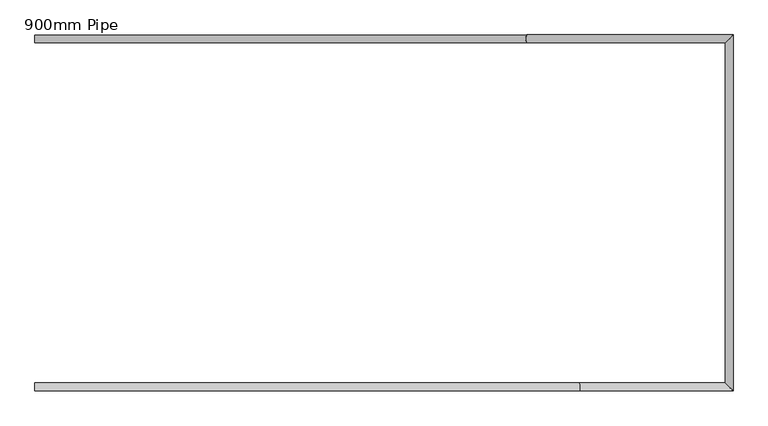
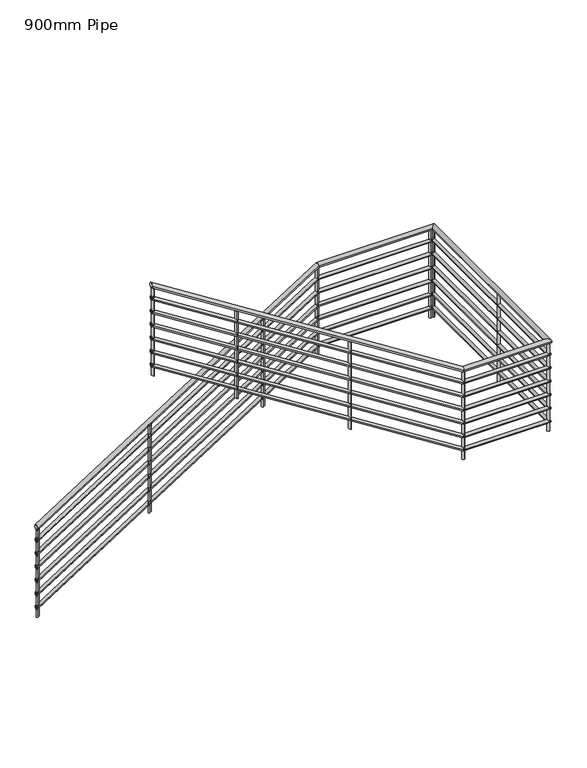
"""IFC4 building model written with IfcOpenShell, lengths in millimetres: railing geometry, 900mm Pipe."""

from ifc_helpers import new_model, si_unit, point, frame, frame_2d, origin, place, context, project, spatial, circle_curve, ellipse_curve, trimmed, segment, composite_curve, outline, extrude, source, transform, mapped, element, save
from ifc_brep_helpers import plane_surface, cylinder_surface, advanced_brep


def railing_900mm_pipe_3b92be15(model_context):
    return source(origin(), model_context, "Body", "SolidModel", [
        advanced_brep(
        [(9044.2181942, 164.5332903, 4551.2938094), (9044.2181942, 204.5332903, 4551.2938094), (11525.0422079, 204.5332903, 6130.0), (11525.0422079, 164.5332903, 6130.0), (12564.2181942, 204.5332903, 6130.0), (12524.2181942, 164.5332903, 6130.0), (12564.2181942, -1592.0090589, 6130.0), (12524.2181942, -1552.0090589, 6130.0), (11788.3941804, -1592.0090589, 6130.0), (11788.3941804, -1552.0090589, 6130.0), (9044.2181942, -1552.0090589, 7876.2938094), (9044.2181942, -1592.0090589, 7876.2938094)],
        [
            (0, 1, ellipse_curve(frame((9044.2181942, 184.5332903, 4551.2938094), z_axis=(-1.0, 0.0, 0.0), x_axis=(0.0, 0.0, -1.0)), 23.7061906, 20.0)),
            (1, 0, ellipse_curve(frame((9044.2181942, 184.5332903, 4551.2938094), z_axis=(-1.0, 0.0, 0.0), x_axis=(0.0, 0.0, -1.0)), 23.7061906, 20.0)),
            (1, 2),
            (2, 3, ellipse_curve(frame((11525.0422079, 184.5332903, 6130.0), z_axis=(-0.9601201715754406, 0.0, -0.2795876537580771), x_axis=(0.27958765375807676, 0.0, -0.9601201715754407)), 20.8307258, 20.0)),
            (3, 0),
            (3, 2, ellipse_curve(frame((11525.0422079, 184.5332903, 6130.0), z_axis=(-0.9601201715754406, 0.0, -0.2795876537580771), x_axis=(0.27958765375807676, 0.0, -0.9601201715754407)), 20.8307258, 20.0)),
            (2, 4),
            (4, 5, ellipse_curve(frame((12544.2181942, 184.5332903, 6130.0), z_axis=(-0.7071067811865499, 0.707106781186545, 0.0), x_axis=(-0.7071067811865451, -0.7071067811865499, 0.0)), 28.2842712, 20.0)),
            (5, 3),
            (5, 4, ellipse_curve(frame((12544.2181942, 184.5332903, 6130.0), z_axis=(-0.7071067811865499, 0.707106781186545, 0.0), x_axis=(-0.7071067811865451, -0.7071067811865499, 0.0)), 28.2842712, 20.0)),
            (4, 6),
            (6, 7, ellipse_curve(frame((12544.2181942, -1572.0090589, 6130.0), z_axis=(0.7071067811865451, 0.7071067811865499, 0.0), x_axis=(-0.70710678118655, 0.7071067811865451, 0.0)), 28.2842712, 20.0)),
            (7, 5),
            (7, 6, ellipse_curve(frame((12544.2181942, -1572.0090589, 6130.0), z_axis=(0.7071067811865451, 0.7071067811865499, 0.0), x_axis=(-0.70710678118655, 0.7071067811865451, 0.0)), 28.2842712, 20.0)),
            (6, 8),
            (8, 9, ellipse_curve(frame((11788.3941804, -1572.0090589, 6130.0), z_axis=(0.9601201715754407, 0.0, -0.279587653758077), x_axis=(0.2795876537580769, 0.0, 0.9601201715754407)), 20.8307258, 20.0)),
            (9, 7),
            (9, 8, ellipse_curve(frame((11788.3941804, -1572.0090589, 6130.0), z_axis=(0.9601201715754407, 0.0, -0.279587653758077), x_axis=(0.2795876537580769, 0.0, 0.9601201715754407)), 20.8307258, 20.0)),
            (10, 11, ellipse_curve(frame((9044.2181942, -1572.0090589, 7876.2938094), z_axis=(-1.0, 0.0, 0.0), x_axis=(0.0, 0.0, -1.0)), 23.7061906, 20.0)),
            (11, 10, ellipse_curve(frame((9044.2181942, -1572.0090589, 7876.2938094), z_axis=(-1.0, 0.0, 0.0), x_axis=(0.0, 0.0, -1.0)), 23.7061906, 20.0)),
            (8, 11),
            (10, 9),
        ],
        [
            plane_surface(frame((9044.2181942, 184.5332903, 4575.0), z_axis=(-1.0, 0.0, 0.0), x_axis=(0.0, 1.0, 0.0))),
            cylinder_surface(frame((9054.955704, 184.5332903, 4558.1267702), z_axis=(-0.8436614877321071, 0.0, -0.5368754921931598), x_axis=(0.0, 1.0, 0.0)), 20.0),
            cylinder_surface(frame((11519.2181942, 184.5332903, 6130.0), z_axis=(-1.0, 0.0, 0.0), x_axis=(0.0, 1.0, 0.0)), 20.0),
            cylinder_surface(frame((12544.2181942, 184.5332903, 6130.0), z_axis=(0.0, 1.0, 0.0), x_axis=(1.0, 0.0, 0.0)), 20.0),
            cylinder_surface(frame((12544.2181942, -1572.0090589, 6130.0), z_axis=(1.0, 0.0, 0.0), x_axis=(0.0, -1.0, 0.0)), 20.0),
            plane_surface(frame((9044.2181942, -1572.0090589, 7900.0), z_axis=(-1.0, 0.0, 0.0), x_axis=(0.0, -1.0, 0.0))),
            cylinder_surface(frame((11783.4806843, -1572.0090589, 6133.1267702), z_axis=(0.8436614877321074, 0.0, -0.5368754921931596), x_axis=(0.0, -1.0, 0.0)), 20.0),
        ],
        [
            (0, [[1, 2]]),
            (1, [[-2, 3, 4, 5]]),
            (1, [[-1, -5, 6, -3]]),
            (2, [[-4, 7, 8, 9]]),
            (2, [[-6, -9, 10, -7]]),
            (3, [[-8, 11, 12, 13]]),
            (3, [[-10, -13, 14, -11]]),
            (4, [[-12, 15, 16, 17]]),
            (4, [[-14, -17, 18, -15]]),
            (5, [[19, 20]]),
            (6, [[-16, 21, -19, 22]]),
            (6, [[-18, -22, -20, -21]]),
        ],
    ),
        advanced_brep(
        [(9044.2181942, 169.5332903, 4432.2203571), (9044.2181942, 199.5332903, 4432.2203571), (11523.5862045, 199.5332903, 6010.0), (11523.5862045, 169.5332903, 6010.0), (12559.2181942, 199.5332903, 6010.0), (12529.2181942, 169.5332903, 6010.0), (12559.2181942, -1587.0090589, 6010.0), (12529.2181942, -1557.0090589, 6010.0), (11789.8501838, -1587.0090589, 6010.0), (11789.8501838, -1557.0090589, 6010.0), (9044.2181942, -1557.0090589, 7757.2203571), (9044.2181942, -1587.0090589, 7757.2203571)],
        [
            (0, 1, ellipse_curve(frame((9044.2181942, 184.5332903, 4432.2203571), z_axis=(-1.0, 0.0, 0.0), x_axis=(0.0, 0.0, -1.0)), 17.7796429, 15.0)),
            (1, 0, ellipse_curve(frame((9044.2181942, 184.5332903, 4432.2203571), z_axis=(-1.0, 0.0, 0.0), x_axis=(0.0, 0.0, -1.0)), 17.7796429, 15.0)),
            (1, 2),
            (2, 3, ellipse_curve(frame((11523.5862045, 184.5332903, 6010.0), z_axis=(-0.9601201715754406, 0.0, -0.27958765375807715), x_axis=(0.2795876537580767, 0.0, -0.9601201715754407)), 15.6230443, 15.0)),
            (3, 0),
            (3, 2, ellipse_curve(frame((11523.5862045, 184.5332903, 6010.0), z_axis=(-0.9601201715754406, 0.0, -0.27958765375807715), x_axis=(0.2795876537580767, 0.0, -0.9601201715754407)), 15.6230443, 15.0)),
            (2, 4),
            (4, 5, ellipse_curve(frame((12544.2181942, 184.5332903, 6010.0), z_axis=(-0.7071067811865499, 0.707106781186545, 0.0), x_axis=(-0.7071067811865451, -0.7071067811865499, 0.0)), 21.2132034, 15.0)),
            (5, 3),
            (5, 4, ellipse_curve(frame((12544.2181942, 184.5332903, 6010.0), z_axis=(-0.7071067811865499, 0.707106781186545, 0.0), x_axis=(-0.7071067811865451, -0.7071067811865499, 0.0)), 21.2132034, 15.0)),
            (4, 6),
            (6, 7, ellipse_curve(frame((12544.2181942, -1572.0090589, 6010.0), z_axis=(0.7071067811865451, 0.7071067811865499, 0.0), x_axis=(-0.70710678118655, 0.7071067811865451, 0.0)), 21.2132034, 15.0)),
            (7, 5),
            (7, 6, ellipse_curve(frame((12544.2181942, -1572.0090589, 6010.0), z_axis=(0.7071067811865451, 0.7071067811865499, 0.0), x_axis=(-0.70710678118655, 0.7071067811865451, 0.0)), 21.2132034, 15.0)),
            (6, 8),
            (8, 9, ellipse_curve(frame((11789.8501838, -1572.0090589, 6010.0), z_axis=(0.9601201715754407, 0.0, -0.279587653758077), x_axis=(0.2795876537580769, 0.0, 0.9601201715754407)), 15.6230443, 15.0)),
            (9, 7),
            (9, 8, ellipse_curve(frame((11789.8501838, -1572.0090589, 6010.0), z_axis=(0.9601201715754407, 0.0, -0.279587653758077), x_axis=(0.2795876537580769, 0.0, 0.9601201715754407)), 15.6230443, 15.0)),
            (10, 11, ellipse_curve(frame((9044.2181942, -1572.0090589, 7757.2203571), z_axis=(-1.0, 0.0, 0.0), x_axis=(0.0, 0.0, -1.0)), 17.7796429, 15.0)),
            (11, 10, ellipse_curve(frame((9044.2181942, -1572.0090589, 7757.2203571), z_axis=(-1.0, 0.0, 0.0), x_axis=(0.0, 0.0, -1.0)), 17.7796429, 15.0)),
            (8, 11),
            (10, 9),
        ],
        [
            plane_surface(frame((9044.2181942, 184.5332903, 4450.0), z_axis=(-1.0, 0.0, 0.0), x_axis=(0.0, 1.0, 0.0))),
            cylinder_surface(frame((9052.2713265, 184.5332903, 4437.3450777), z_axis=(-0.8436614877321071, 0.0, -0.5368754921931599), x_axis=(0.0, 1.0, 0.0)), 15.0),
            cylinder_surface(frame((11519.2181942, 184.5332903, 6010.0), z_axis=(-1.0, 0.0, 0.0), x_axis=(0.0, 1.0, 0.0)), 15.0),
            cylinder_surface(frame((12544.2181942, 184.5332903, 6010.0), z_axis=(0.0, 1.0, 0.0), x_axis=(1.0, 0.0, 0.0)), 15.0),
            cylinder_surface(frame((12544.2181942, -1572.0090589, 6010.0), z_axis=(1.0, 0.0, 0.0), x_axis=(0.0, -1.0, 0.0)), 15.0),
            plane_surface(frame((9044.2181942, -1572.0090589, 7775.0), z_axis=(-1.0, 0.0, 0.0), x_axis=(0.0, -1.0, 0.0))),
            cylinder_surface(frame((11786.1650618, -1572.0090589, 6012.3450777), z_axis=(0.8436614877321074, 0.0, -0.5368754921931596), x_axis=(0.0, -1.0, 0.0)), 15.0),
        ],
        [
            (0, [[1, 2]]),
            (1, [[-2, 3, 4, 5]]),
            (1, [[-1, -5, 6, -3]]),
            (2, [[-4, 7, 8, 9]]),
            (2, [[-6, -9, 10, -7]]),
            (3, [[-8, 11, 12, 13]]),
            (3, [[-10, -13, 14, -11]]),
            (4, [[-12, 15, 16, 17]]),
            (4, [[-14, -17, 18, -15]]),
            (5, [[19, 20]]),
            (6, [[-16, 21, -19, 22]]),
            (6, [[-18, -22, -20, -21]]),
        ],
    ),
        advanced_brep(
        [(9044.2181942, 169.5332903, 4307.2203571), (9044.2181942, 199.5332903, 4307.2203571), (11523.5862045, 199.5332903, 5885.0), (11523.5862045, 169.5332903, 5885.0), (12559.2181942, 199.5332903, 5885.0), (12529.2181942, 169.5332903, 5885.0), (12559.2181942, -1587.0090589, 5885.0), (12529.2181942, -1557.0090589, 5885.0), (11789.8501838, -1587.0090589, 5885.0), (11789.8501838, -1557.0090589, 5885.0), (9044.2181942, -1557.0090589, 7632.2203571), (9044.2181942, -1587.0090589, 7632.2203571)],
        [
            (0, 1, ellipse_curve(frame((9044.2181942, 184.5332903, 4307.2203571), z_axis=(-1.0, 0.0, 0.0), x_axis=(0.0, 0.0, -1.0)), 17.7796429, 15.0)),
            (1, 0, ellipse_curve(frame((9044.2181942, 184.5332903, 4307.2203571), z_axis=(-1.0, 0.0, 0.0), x_axis=(0.0, 0.0, -1.0)), 17.7796429, 15.0)),
            (1, 2),
            (2, 3, ellipse_curve(frame((11523.5862045, 184.5332903, 5885.0), z_axis=(-0.9601201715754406, 0.0, -0.2795876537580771), x_axis=(0.27958765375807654, 0.0, -0.9601201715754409)), 15.6230443, 15.0)),
            (3, 0),
            (3, 2, ellipse_curve(frame((11523.5862045, 184.5332903, 5885.0), z_axis=(-0.9601201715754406, 0.0, -0.2795876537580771), x_axis=(0.27958765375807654, 0.0, -0.9601201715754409)), 15.6230443, 15.0)),
            (2, 4),
            (4, 5, ellipse_curve(frame((12544.2181942, 184.5332903, 5885.0), z_axis=(-0.7071067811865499, 0.707106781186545, 0.0), x_axis=(-0.7071067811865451, -0.7071067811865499, 0.0)), 21.2132034, 15.0)),
            (5, 3),
            (5, 4, ellipse_curve(frame((12544.2181942, 184.5332903, 5885.0), z_axis=(-0.7071067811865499, 0.707106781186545, 0.0), x_axis=(-0.7071067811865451, -0.7071067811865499, 0.0)), 21.2132034, 15.0)),
            (4, 6),
            (6, 7, ellipse_curve(frame((12544.2181942, -1572.0090589, 5885.0), z_axis=(0.7071067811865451, 0.7071067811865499, 0.0), x_axis=(-0.70710678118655, 0.7071067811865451, 0.0)), 21.2132034, 15.0)),
            (7, 5),
            (7, 6, ellipse_curve(frame((12544.2181942, -1572.0090589, 5885.0), z_axis=(0.7071067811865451, 0.7071067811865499, 0.0), x_axis=(-0.70710678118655, 0.7071067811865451, 0.0)), 21.2132034, 15.0)),
            (6, 8),
            (8, 9, ellipse_curve(frame((11789.8501838, -1572.0090589, 5885.0), z_axis=(0.9601201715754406, 0.0, -0.27958765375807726), x_axis=(0.27958765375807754, 0.0, 0.9601201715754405)), 15.6230443, 15.0)),
            (9, 7),
            (9, 8, ellipse_curve(frame((11789.8501838, -1572.0090589, 5885.0), z_axis=(0.9601201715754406, 0.0, -0.27958765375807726), x_axis=(0.27958765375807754, 0.0, 0.9601201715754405)), 15.6230443, 15.0)),
            (10, 11, ellipse_curve(frame((9044.2181942, -1572.0090589, 7632.2203571), z_axis=(-1.0, 0.0, 0.0), x_axis=(0.0, 0.0, -1.0)), 17.7796429, 15.0)),
            (11, 10, ellipse_curve(frame((9044.2181942, -1572.0090589, 7632.2203571), z_axis=(-1.0, 0.0, 0.0), x_axis=(0.0, 0.0, -1.0)), 17.7796429, 15.0)),
            (8, 11),
            (10, 9),
        ],
        [
            plane_surface(frame((9044.2181942, 184.5332903, 4325.0), z_axis=(-1.0, 0.0, 0.0), x_axis=(0.0, 1.0, 0.0))),
            cylinder_surface(frame((9052.2713265, 184.5332903, 4312.3450777), z_axis=(-0.8436614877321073, 0.0, -0.5368754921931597), x_axis=(0.0, 1.0, 0.0)), 15.0),
            cylinder_surface(frame((11519.2181942, 184.5332903, 5885.0), z_axis=(-1.0, 0.0, 0.0), x_axis=(0.0, 1.0, 0.0)), 15.0),
            cylinder_surface(frame((12544.2181942, 184.5332903, 5885.0), z_axis=(0.0, 1.0, 0.0), x_axis=(1.0, 0.0, 0.0)), 15.0),
            cylinder_surface(frame((12544.2181942, -1572.0090589, 5885.0), z_axis=(1.0, 0.0, 0.0), x_axis=(0.0, -1.0, 0.0)), 15.0),
            plane_surface(frame((9044.2181942, -1572.0090589, 7650.0), z_axis=(-1.0, 0.0, 0.0), x_axis=(0.0, -1.0, 0.0))),
            cylinder_surface(frame((11786.1650618, -1572.0090589, 5887.3450777), z_axis=(0.8436614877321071, 0.0, -0.53687549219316), x_axis=(0.0, -1.0, 0.0)), 15.0),
        ],
        [
            (0, [[1, 2]]),
            (1, [[-2, 3, 4, 5]]),
            (1, [[-1, -5, 6, -3]]),
            (2, [[-4, 7, 8, 9]]),
            (2, [[-6, -9, 10, -7]]),
            (3, [[-8, 11, 12, 13]]),
            (3, [[-10, -13, 14, -11]]),
            (4, [[-12, 15, 16, 17]]),
            (4, [[-14, -17, 18, -15]]),
            (5, [[19, 20]]),
            (6, [[-16, 21, -19, 22]]),
            (6, [[-18, -22, -20, -21]]),
        ],
    ),
        advanced_brep(
        [(9044.2181942, 169.5332903, 4182.2203571), (9044.2181942, 199.5332903, 4182.2203571), (11523.5862045, 199.5332903, 5760.0), (11523.5862045, 169.5332903, 5760.0), (12559.2181942, 199.5332903, 5760.0), (12529.2181942, 169.5332903, 5760.0), (12559.2181942, -1587.0090589, 5760.0), (12529.2181942, -1557.0090589, 5760.0), (11789.8501838, -1587.0090589, 5760.0), (11789.8501838, -1557.0090589, 5760.0), (9044.2181942, -1557.0090589, 7507.2203571), (9044.2181942, -1587.0090589, 7507.2203571)],
        [
            (0, 1, ellipse_curve(frame((9044.2181942, 184.5332903, 4182.2203571), z_axis=(-1.0, 0.0, 0.0), x_axis=(0.0, 0.0, -1.0)), 17.7796429, 15.0)),
            (1, 0, ellipse_curve(frame((9044.2181942, 184.5332903, 4182.2203571), z_axis=(-1.0, 0.0, 0.0), x_axis=(0.0, 0.0, -1.0)), 17.7796429, 15.0)),
            (1, 2),
            (2, 3, ellipse_curve(frame((11523.5862045, 184.5332903, 5760.0), z_axis=(-0.9601201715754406, 0.0, -0.2795876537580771), x_axis=(0.27958765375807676, 0.0, -0.9601201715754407)), 15.6230443, 15.0)),
            (3, 0),
            (3, 2, ellipse_curve(frame((11523.5862045, 184.5332903, 5760.0), z_axis=(-0.9601201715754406, 0.0, -0.2795876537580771), x_axis=(0.27958765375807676, 0.0, -0.9601201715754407)), 15.6230443, 15.0)),
            (2, 4),
            (4, 5, ellipse_curve(frame((12544.2181942, 184.5332903, 5760.0), z_axis=(-0.7071067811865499, 0.707106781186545, 0.0), x_axis=(-0.7071067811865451, -0.7071067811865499, 0.0)), 21.2132034, 15.0)),
            (5, 3),
            (5, 4, ellipse_curve(frame((12544.2181942, 184.5332903, 5760.0), z_axis=(-0.7071067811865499, 0.707106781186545, 0.0), x_axis=(-0.7071067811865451, -0.7071067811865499, 0.0)), 21.2132034, 15.0)),
            (4, 6),
            (6, 7, ellipse_curve(frame((12544.2181942, -1572.0090589, 5760.0), z_axis=(0.7071067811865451, 0.7071067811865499, 0.0), x_axis=(-0.70710678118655, 0.7071067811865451, 0.0)), 21.2132034, 15.0)),
            (7, 5),
            (7, 6, ellipse_curve(frame((12544.2181942, -1572.0090589, 5760.0), z_axis=(0.7071067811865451, 0.7071067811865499, 0.0), x_axis=(-0.70710678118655, 0.7071067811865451, 0.0)), 21.2132034, 15.0)),
            (6, 8),
            (8, 9, ellipse_curve(frame((11789.8501838, -1572.0090589, 5760.0), z_axis=(0.9601201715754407, 0.0, -0.279587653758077), x_axis=(0.2795876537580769, 0.0, 0.9601201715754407)), 15.6230443, 15.0)),
            (9, 7),
            (9, 8, ellipse_curve(frame((11789.8501838, -1572.0090589, 5760.0), z_axis=(0.9601201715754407, 0.0, -0.279587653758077), x_axis=(0.2795876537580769, 0.0, 0.9601201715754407)), 15.6230443, 15.0)),
            (10, 11, ellipse_curve(frame((9044.2181942, -1572.0090589, 7507.2203571), z_axis=(-1.0, 0.0, 0.0), x_axis=(0.0, 0.0, -1.0)), 17.7796429, 15.0)),
            (11, 10, ellipse_curve(frame((9044.2181942, -1572.0090589, 7507.2203571), z_axis=(-1.0, 0.0, 0.0), x_axis=(0.0, 0.0, -1.0)), 17.7796429, 15.0)),
            (8, 11),
            (10, 9),
        ],
        [
            plane_surface(frame((9044.2181942, 184.5332903, 4200.0), z_axis=(-1.0, 0.0, 0.0), x_axis=(0.0, 1.0, 0.0))),
            cylinder_surface(frame((9052.2713265, 184.5332903, 4187.3450777), z_axis=(-0.8436614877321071, 0.0, -0.5368754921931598), x_axis=(0.0, 1.0, 0.0)), 15.0),
            cylinder_surface(frame((11519.2181942, 184.5332903, 5760.0), z_axis=(-1.0, 0.0, 0.0), x_axis=(0.0, 1.0, 0.0)), 15.0),
            cylinder_surface(frame((12544.2181942, 184.5332903, 5760.0), z_axis=(0.0, 1.0, 0.0), x_axis=(1.0, 0.0, 0.0)), 15.0),
            cylinder_surface(frame((12544.2181942, -1572.0090589, 5760.0), z_axis=(1.0, 0.0, 0.0), x_axis=(0.0, -1.0, 0.0)), 15.0),
            plane_surface(frame((9044.2181942, -1572.0090589, 7525.0), z_axis=(-1.0, 0.0, 0.0), x_axis=(0.0, -1.0, 0.0))),
            cylinder_surface(frame((11786.1650618, -1572.0090589, 5762.3450777), z_axis=(0.8436614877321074, 0.0, -0.5368754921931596), x_axis=(0.0, -1.0, 0.0)), 15.0),
        ],
        [
            (0, [[1, 2]]),
            (1, [[-2, 3, 4, 5]]),
            (1, [[-1, -5, 6, -3]]),
            (2, [[-4, 7, 8, 9]]),
            (2, [[-6, -9, 10, -7]]),
            (3, [[-8, 11, 12, 13]]),
            (3, [[-10, -13, 14, -11]]),
            (4, [[-12, 15, 16, 17]]),
            (4, [[-14, -17, 18, -15]]),
            (5, [[19, 20]]),
            (6, [[-16, 21, -19, 22]]),
            (6, [[-18, -22, -20, -21]]),
        ],
    ),
        advanced_brep(
        [(9044.2181942, 169.5332903, 4057.2203571), (9044.2181942, 199.5332903, 4057.2203571), (11523.5862045, 199.5332903, 5635.0), (11523.5862045, 169.5332903, 5635.0), (12559.2181942, 199.5332903, 5635.0), (12529.2181942, 169.5332903, 5635.0), (12559.2181942, -1587.0090589, 5635.0), (12529.2181942, -1557.0090589, 5635.0), (11789.8501838, -1587.0090589, 5635.0), (11789.8501838, -1557.0090589, 5635.0), (9044.2181942, -1557.0090589, 7382.2203571), (9044.2181942, -1587.0090589, 7382.2203571)],
        [
            (0, 1, ellipse_curve(frame((9044.2181942, 184.5332903, 4057.2203571), z_axis=(-1.0, 0.0, 0.0), x_axis=(0.0, 0.0, -1.0)), 17.7796429, 15.0)),
            (1, 0, ellipse_curve(frame((9044.2181942, 184.5332903, 4057.2203571), z_axis=(-1.0, 0.0, 0.0), x_axis=(0.0, 0.0, -1.0)), 17.7796429, 15.0)),
            (1, 2),
            (2, 3, ellipse_curve(frame((11523.5862045, 184.5332903, 5635.0), z_axis=(-0.9601201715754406, 0.0, -0.2795876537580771), x_axis=(0.27958765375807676, 0.0, -0.9601201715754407)), 15.6230443, 15.0)),
            (3, 0),
            (3, 2, ellipse_curve(frame((11523.5862045, 184.5332903, 5635.0), z_axis=(-0.9601201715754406, 0.0, -0.2795876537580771), x_axis=(0.27958765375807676, 0.0, -0.9601201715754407)), 15.6230443, 15.0)),
            (2, 4),
            (4, 5, ellipse_curve(frame((12544.2181942, 184.5332903, 5635.0), z_axis=(-0.7071067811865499, 0.707106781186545, 0.0), x_axis=(-0.7071067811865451, -0.7071067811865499, 0.0)), 21.2132034, 15.0)),
            (5, 3),
            (5, 4, ellipse_curve(frame((12544.2181942, 184.5332903, 5635.0), z_axis=(-0.7071067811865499, 0.707106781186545, 0.0), x_axis=(-0.7071067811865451, -0.7071067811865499, 0.0)), 21.2132034, 15.0)),
            (4, 6),
            (6, 7, ellipse_curve(frame((12544.2181942, -1572.0090589, 5635.0), z_axis=(0.7071067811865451, 0.7071067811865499, 0.0), x_axis=(-0.70710678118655, 0.7071067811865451, 0.0)), 21.2132034, 15.0)),
            (7, 5),
            (7, 6, ellipse_curve(frame((12544.2181942, -1572.0090589, 5635.0), z_axis=(0.7071067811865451, 0.7071067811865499, 0.0), x_axis=(-0.70710678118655, 0.7071067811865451, 0.0)), 21.2132034, 15.0)),
            (6, 8),
            (8, 9, ellipse_curve(frame((11789.8501838, -1572.0090589, 5635.0), z_axis=(0.9601201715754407, 0.0, -0.279587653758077), x_axis=(0.2795876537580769, 0.0, 0.9601201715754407)), 15.6230443, 15.0)),
            (9, 7),
            (9, 8, ellipse_curve(frame((11789.8501838, -1572.0090589, 5635.0), z_axis=(0.9601201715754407, 0.0, -0.279587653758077), x_axis=(0.2795876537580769, 0.0, 0.9601201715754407)), 15.6230443, 15.0)),
            (10, 11, ellipse_curve(frame((9044.2181942, -1572.0090589, 7382.2203571), z_axis=(-1.0, 0.0, 0.0), x_axis=(0.0, 0.0, -1.0)), 17.7796429, 15.0)),
            (11, 10, ellipse_curve(frame((9044.2181942, -1572.0090589, 7382.2203571), z_axis=(-1.0, 0.0, 0.0), x_axis=(0.0, 0.0, -1.0)), 17.7796429, 15.0)),
            (8, 11),
            (10, 9),
        ],
        [
            plane_surface(frame((9044.2181942, 184.5332903, 4075.0), z_axis=(-1.0, 0.0, 0.0), x_axis=(0.0, 1.0, 0.0))),
            cylinder_surface(frame((9052.2713265, 184.5332903, 4062.3450777), z_axis=(-0.8436614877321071, 0.0, -0.5368754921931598), x_axis=(0.0, 1.0, 0.0)), 15.0),
            cylinder_surface(frame((11519.2181942, 184.5332903, 5635.0), z_axis=(-1.0, 0.0, 0.0), x_axis=(0.0, 1.0, 0.0)), 15.0),
            cylinder_surface(frame((12544.2181942, 184.5332903, 5635.0), z_axis=(0.0, 1.0, 0.0), x_axis=(1.0, 0.0, 0.0)), 15.0),
            cylinder_surface(frame((12544.2181942, -1572.0090589, 5635.0), z_axis=(1.0, 0.0, 0.0), x_axis=(0.0, -1.0, 0.0)), 15.0),
            plane_surface(frame((9044.2181942, -1572.0090589, 7400.0), z_axis=(-1.0, 0.0, 0.0), x_axis=(0.0, -1.0, 0.0))),
            cylinder_surface(frame((11786.1650618, -1572.0090589, 5637.3450777), z_axis=(0.8436614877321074, 0.0, -0.5368754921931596), x_axis=(0.0, -1.0, 0.0)), 15.0),
        ],
        [
            (0, [[1, 2]]),
            (1, [[-2, 3, 4, 5]]),
            (1, [[-1, -5, 6, -3]]),
            (2, [[-4, 7, 8, 9]]),
            (2, [[-6, -9, 10, -7]]),
            (3, [[-8, 11, 12, 13]]),
            (3, [[-10, -13, 14, -11]]),
            (4, [[-12, 15, 16, 17]]),
            (4, [[-14, -17, 18, -15]]),
            (5, [[19, 20]]),
            (6, [[-16, 21, -19, 22]]),
            (6, [[-18, -22, -20, -21]]),
        ],
    ),
        advanced_brep(
        [(9044.2181942, 169.5332903, 3932.2203571), (9044.2181942, 199.5332903, 3932.2203571), (11523.5862045, 199.5332903, 5510.0), (11523.5862045, 169.5332903, 5510.0), (12559.2181942, 199.5332903, 5510.0), (12529.2181942, 169.5332903, 5510.0), (12559.2181942, -1587.0090589, 5510.0), (12529.2181942, -1557.0090589, 5510.0), (11789.8501838, -1587.0090589, 5510.0), (11789.8501838, -1557.0090589, 5510.0), (9044.2181942, -1557.0090589, 7257.2203571), (9044.2181942, -1587.0090589, 7257.2203571)],
        [
            (0, 1, ellipse_curve(frame((9044.2181942, 184.5332903, 3932.2203571), z_axis=(-1.0, 0.0, 0.0), x_axis=(0.0, 0.0, -1.0)), 17.7796429, 15.0)),
            (1, 0, ellipse_curve(frame((9044.2181942, 184.5332903, 3932.2203571), z_axis=(-1.0, 0.0, 0.0), x_axis=(0.0, 0.0, -1.0)), 17.7796429, 15.0)),
            (1, 2),
            (2, 3, ellipse_curve(frame((11523.5862045, 184.5332903, 5510.0), z_axis=(-0.9601201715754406, 0.0, -0.2795876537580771), x_axis=(0.27958765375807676, 0.0, -0.9601201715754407)), 15.6230443, 15.0)),
            (3, 0),
            (3, 2, ellipse_curve(frame((11523.5862045, 184.5332903, 5510.0), z_axis=(-0.9601201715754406, 0.0, -0.2795876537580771), x_axis=(0.27958765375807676, 0.0, -0.9601201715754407)), 15.6230443, 15.0)),
            (2, 4),
            (4, 5, ellipse_curve(frame((12544.2181942, 184.5332903, 5510.0), z_axis=(-0.7071067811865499, 0.707106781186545, 0.0), x_axis=(-0.7071067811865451, -0.7071067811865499, 0.0)), 21.2132034, 15.0)),
            (5, 3),
            (5, 4, ellipse_curve(frame((12544.2181942, 184.5332903, 5510.0), z_axis=(-0.7071067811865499, 0.707106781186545, 0.0), x_axis=(-0.7071067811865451, -0.7071067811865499, 0.0)), 21.2132034, 15.0)),
            (4, 6),
            (6, 7, ellipse_curve(frame((12544.2181942, -1572.0090589, 5510.0), z_axis=(0.7071067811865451, 0.7071067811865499, 0.0), x_axis=(-0.70710678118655, 0.7071067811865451, 0.0)), 21.2132034, 15.0)),
            (7, 5),
            (7, 6, ellipse_curve(frame((12544.2181942, -1572.0090589, 5510.0), z_axis=(0.7071067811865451, 0.7071067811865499, 0.0), x_axis=(-0.70710678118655, 0.7071067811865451, 0.0)), 21.2132034, 15.0)),
            (6, 8),
            (8, 9, ellipse_curve(frame((11789.8501838, -1572.0090589, 5510.0), z_axis=(0.9601201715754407, 0.0, -0.279587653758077), x_axis=(0.2795876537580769, 0.0, 0.9601201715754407)), 15.6230443, 15.0)),
            (9, 7),
            (9, 8, ellipse_curve(frame((11789.8501838, -1572.0090589, 5510.0), z_axis=(0.9601201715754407, 0.0, -0.279587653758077), x_axis=(0.2795876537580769, 0.0, 0.9601201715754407)), 15.6230443, 15.0)),
            (10, 11, ellipse_curve(frame((9044.2181942, -1572.0090589, 7257.2203571), z_axis=(-1.0, 0.0, 0.0), x_axis=(0.0, 0.0, -1.0)), 17.7796429, 15.0)),
            (11, 10, ellipse_curve(frame((9044.2181942, -1572.0090589, 7257.2203571), z_axis=(-1.0, 0.0, 0.0), x_axis=(0.0, 0.0, -1.0)), 17.7796429, 15.0)),
            (8, 11),
            (10, 9),
        ],
        [
            plane_surface(frame((9044.2181942, 184.5332903, 3950.0), z_axis=(-1.0, 0.0, 0.0), x_axis=(0.0, 1.0, 0.0))),
            cylinder_surface(frame((9052.2713265, 184.5332903, 3937.3450777), z_axis=(-0.8436614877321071, 0.0, -0.5368754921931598), x_axis=(0.0, 1.0, 0.0)), 15.0),
            cylinder_surface(frame((11519.2181942, 184.5332903, 5510.0), z_axis=(-1.0, 0.0, 0.0), x_axis=(0.0, 1.0, 0.0)), 15.0),
            cylinder_surface(frame((12544.2181942, 184.5332903, 5510.0), z_axis=(0.0, 1.0, 0.0), x_axis=(1.0, 0.0, 0.0)), 15.0),
            cylinder_surface(frame((12544.2181942, -1572.0090589, 5510.0), z_axis=(1.0, 0.0, 0.0), x_axis=(0.0, -1.0, 0.0)), 15.0),
            plane_surface(frame((9044.2181942, -1572.0090589, 7275.0), z_axis=(-1.0, 0.0, 0.0), x_axis=(0.0, -1.0, 0.0))),
            cylinder_surface(frame((11786.1650618, -1572.0090589, 5512.3450777), z_axis=(0.8436614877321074, 0.0, -0.5368754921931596), x_axis=(0.0, -1.0, 0.0)), 15.0),
        ],
        [
            (0, [[1, 2]]),
            (1, [[-2, 3, 4, 5]]),
            (1, [[-1, -5, 6, -3]]),
            (2, [[-4, 7, 8, 9]]),
            (2, [[-6, -9, 10, -7]]),
            (3, [[-8, 11, 12, 13]]),
            (3, [[-10, -13, 14, -11]]),
            (4, [[-12, 15, 16, 17]]),
            (4, [[-14, -17, 18, -15]]),
            (5, [[19, 20]]),
            (6, [[-16, 21, -19, 22]]),
            (6, [[-18, -22, -20, -21]]),
        ],
    ),
        advanced_brep(
        [(9044.2181942, 169.5332903, 3807.2203571), (9044.2181942, 199.5332903, 3807.2203571), (11523.5862045, 199.5332903, 5385.0), (11523.5862045, 169.5332903, 5385.0), (12559.2181942, 199.5332903, 5385.0), (12529.2181942, 169.5332903, 5385.0), (12559.2181942, -1587.0090589, 5385.0), (12529.2181942, -1557.0090589, 5385.0), (11789.8501838, -1587.0090589, 5385.0), (11789.8501838, -1557.0090589, 5385.0), (9044.2181942, -1557.0090589, 7132.2203571), (9044.2181942, -1587.0090589, 7132.2203571)],
        [
            (0, 1, ellipse_curve(frame((9044.2181942, 184.5332903, 3807.2203571), z_axis=(-1.0, 0.0, 0.0), x_axis=(0.0, 0.0, -1.0)), 17.7796429, 15.0)),
            (1, 0, ellipse_curve(frame((9044.2181942, 184.5332903, 3807.2203571), z_axis=(-1.0, 0.0, 0.0), x_axis=(0.0, 0.0, -1.0)), 17.7796429, 15.0)),
            (1, 2),
            (2, 3, ellipse_curve(frame((11523.5862045, 184.5332903, 5385.0), z_axis=(-0.9601201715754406, 0.0, -0.2795876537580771), x_axis=(0.27958765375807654, 0.0, -0.9601201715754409)), 15.6230443, 15.0)),
            (3, 0),
            (3, 2, ellipse_curve(frame((11523.5862045, 184.5332903, 5385.0), z_axis=(-0.9601201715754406, 0.0, -0.2795876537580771), x_axis=(0.27958765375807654, 0.0, -0.9601201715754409)), 15.6230443, 15.0)),
            (2, 4),
            (4, 5, ellipse_curve(frame((12544.2181942, 184.5332903, 5385.0), z_axis=(-0.7071067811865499, 0.707106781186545, 0.0), x_axis=(-0.7071067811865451, -0.7071067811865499, 0.0)), 21.2132034, 15.0)),
            (5, 3),
            (5, 4, ellipse_curve(frame((12544.2181942, 184.5332903, 5385.0), z_axis=(-0.7071067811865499, 0.707106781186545, 0.0), x_axis=(-0.7071067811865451, -0.7071067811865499, 0.0)), 21.2132034, 15.0)),
            (4, 6),
            (6, 7, ellipse_curve(frame((12544.2181942, -1572.0090589, 5385.0), z_axis=(0.7071067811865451, 0.7071067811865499, 0.0), x_axis=(-0.70710678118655, 0.7071067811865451, 0.0)), 21.2132034, 15.0)),
            (7, 5),
            (7, 6, ellipse_curve(frame((12544.2181942, -1572.0090589, 5385.0), z_axis=(0.7071067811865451, 0.7071067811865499, 0.0), x_axis=(-0.70710678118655, 0.7071067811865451, 0.0)), 21.2132034, 15.0)),
            (6, 8),
            (8, 9, ellipse_curve(frame((11789.8501838, -1572.0090589, 5385.0), z_axis=(0.9601201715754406, 0.0, -0.2795876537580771), x_axis=(0.2795876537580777, 0.0, 0.9601201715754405)), 15.6230443, 15.0)),
            (9, 7),
            (9, 8, ellipse_curve(frame((11789.8501838, -1572.0090589, 5385.0), z_axis=(0.9601201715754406, 0.0, -0.2795876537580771), x_axis=(0.2795876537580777, 0.0, 0.9601201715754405)), 15.6230443, 15.0)),
            (10, 11, ellipse_curve(frame((9044.2181942, -1572.0090589, 7132.2203571), z_axis=(-1.0, 0.0, 0.0), x_axis=(0.0, 0.0, -1.0)), 17.7796429, 15.0)),
            (11, 10, ellipse_curve(frame((9044.2181942, -1572.0090589, 7132.2203571), z_axis=(-1.0, 0.0, 0.0), x_axis=(0.0, 0.0, -1.0)), 17.7796429, 15.0)),
            (8, 11),
            (10, 9),
        ],
        [
            plane_surface(frame((9044.2181942, 184.5332903, 3825.0), z_axis=(-1.0, 0.0, 0.0), x_axis=(0.0, 1.0, 0.0))),
            cylinder_surface(frame((9052.2713265, 184.5332903, 3812.3450777), z_axis=(-0.8436614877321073, 0.0, -0.5368754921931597), x_axis=(0.0, 1.0, 0.0)), 15.0),
            cylinder_surface(frame((11519.2181942, 184.5332903, 5385.0), z_axis=(-1.0, 0.0, 0.0), x_axis=(0.0, 1.0, 0.0)), 15.0),
            cylinder_surface(frame((12544.2181942, 184.5332903, 5385.0), z_axis=(0.0, 1.0, 0.0), x_axis=(1.0, 0.0, 0.0)), 15.0),
            cylinder_surface(frame((12544.2181942, -1572.0090589, 5385.0), z_axis=(1.0, 0.0, 0.0), x_axis=(0.0, -1.0, 0.0)), 15.0),
            plane_surface(frame((9044.2181942, -1572.0090589, 7150.0), z_axis=(-1.0, 0.0, 0.0), x_axis=(0.0, -1.0, 0.0))),
            cylinder_surface(frame((11786.1650618, -1572.0090589, 5387.3450777), z_axis=(0.8436614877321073, 0.0, -0.5368754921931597), x_axis=(0.0, -1.0, 0.0)), 15.0),
        ],
        [
            (0, [[1, 2]]),
            (1, [[-2, 3, 4, 5]]),
            (1, [[-1, -5, 6, -3]]),
            (2, [[-4, 7, 8, 9]]),
            (2, [[-6, -9, 10, -7]]),
            (3, [[-8, 11, 12, 13]]),
            (3, [[-10, -13, 14, -11]]),
            (4, [[-12, 15, 16, 17]]),
            (4, [[-14, -17, 18, -15]]),
            (5, [[19, 20]]),
            (6, [[-16, 21, -19, 22]]),
            (6, [[-18, -22, -20, -21]]),
        ],
    ),
        advanced_brep(
        [(9794.2181942, -1584.5090589, 7375.3148916), (9794.2181942, -1559.5090589, 7375.3148916), (9794.2181942, -1559.5090589, 6563.1941859), (9794.2181942, -1584.5090589, 6563.1941859)],
        [
            (0, 1, ellipse_curve(frame((9794.2181942, -1572.0090589, 7375.3148916), z_axis=(-0.5368754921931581, 0.0, -0.8436614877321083), x_axis=(-0.8436614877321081, 0.0, 0.5368754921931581)), 14.8163691, 12.5)),
            (1, 2),
            (2, 3, ellipse_curve(frame((9794.2181942, -1572.0090589, 6563.1941859), z_axis=(0.5368754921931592, 0.0, 0.8436614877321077), x_axis=(-0.8436614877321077, 0.0, 0.5368754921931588)), 14.8163691, 12.5)),
            (3, 0),
            (3, 2, ellipse_curve(frame((9794.2181942, -1572.0090589, 6563.1941859), z_axis=(0.5368754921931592, 0.0, 0.8436614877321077), x_axis=(-0.8436614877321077, 0.0, 0.5368754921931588)), 14.8163691, 12.5)),
            (1, 0, ellipse_curve(frame((9794.2181942, -1572.0090589, 7375.3148916), z_axis=(-0.5368754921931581, 0.0, -0.8436614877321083), x_axis=(-0.8436614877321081, 0.0, 0.5368754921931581)), 14.8163691, 12.5)),
        ],
        [
            cylinder_surface(frame((9794.2181942, -1572.0090589, 6463.1941859), z_axis=(0.0, 0.0, 1.0), x_axis=(0.0, 1.0, 0.0)), 12.5),
            plane_surface(frame((9769.2181942, -1547.0090589, 7391.2239825), z_axis=(0.5368754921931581, 0.0, 0.8436614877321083), x_axis=(0.0, -1.0, 0.0))),
            plane_surface(frame((9819.2181942, -1547.0090589, 6547.285095), z_axis=(-0.5368754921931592, 0.0, -0.8436614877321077), x_axis=(0.0, -1.0, 0.0))),
        ],
        [
            (0, [[1, 2, 3, 4]]),
            (0, [[5, -2, 6, -4]]),
            (1, [[-6, -1]]),
            (2, [[-5, -3]]),
        ],
    ),
        advanced_brep(
        [(10794.2181942, -1584.5090589, 6738.9512552), (10794.2181942, -1559.5090589, 6738.9512552), (10794.2181942, -1559.5090589, 5926.8305496), (10794.2181942, -1584.5090589, 5926.8305496)],
        [
            (0, 1, ellipse_curve(frame((10794.2181942, -1572.0090589, 6738.9512552), z_axis=(-0.5368754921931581, 0.0, -0.8436614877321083), x_axis=(-0.8436614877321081, 0.0, 0.5368754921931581)), 14.8163691, 12.5)),
            (1, 2),
            (2, 3, ellipse_curve(frame((10794.2181942, -1572.0090589, 5926.8305496), z_axis=(0.5368754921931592, 0.0, 0.8436614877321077), x_axis=(-0.8436614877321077, 0.0, 0.5368754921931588)), 14.8163691, 12.5)),
            (3, 0),
            (3, 2, ellipse_curve(frame((10794.2181942, -1572.0090589, 5926.8305496), z_axis=(0.5368754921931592, 0.0, 0.8436614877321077), x_axis=(-0.8436614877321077, 0.0, 0.5368754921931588)), 14.8163691, 12.5)),
            (1, 0, ellipse_curve(frame((10794.2181942, -1572.0090589, 6738.9512552), z_axis=(-0.5368754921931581, 0.0, -0.8436614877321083), x_axis=(-0.8436614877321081, 0.0, 0.5368754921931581)), 14.8163691, 12.5)),
        ],
        [
            cylinder_surface(frame((10794.2181942, -1572.0090589, 5826.8305496), z_axis=(0.0, 0.0, 1.0), x_axis=(0.0, 1.0, 0.0)), 12.5),
            plane_surface(frame((10769.2181942, -1547.0090589, 6754.8603461), z_axis=(0.5368754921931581, 0.0, 0.8436614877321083), x_axis=(0.0, -1.0, 0.0))),
            plane_surface(frame((10819.2181942, -1547.0090589, 5910.9214587), z_axis=(-0.5368754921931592, 0.0, -0.8436614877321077), x_axis=(0.0, -1.0, 0.0))),
        ],
        [
            (0, [[1, 2, 3, 4]]),
            (0, [[5, -2, 6, -4]]),
            (1, [[-6, -1]]),
            (2, [[-5, -3]]),
        ],
    ),
        extrude(outline(composite_curve([segment(trimmed(circle_curve(frame_2d((12544.2181942, -815.4667097)), 12.5), [point((12531.7181942, -815.4667097))], [point((12556.7181942, -815.4667097))], False, "CARTESIAN"), True, "CONTINUOUS"), segment(trimmed(circle_curve(frame_2d((12544.2181942, -815.4667097)), 12.5), [point((12556.7181942, -815.4667097))], [point((12531.7181942, -815.4667097))], False, "CARTESIAN"), True, "CONTINUOUS")], self_intersect=False)), frame((0.0, 0.0, 5297.393727), z_axis=(0.0, 0.0, 1.0), x_axis=(1.0, 0.0, 0.0)), (0.0, 0.0, 1.0), 812.606273),
        extrude(outline(composite_curve([segment(trimmed(circle_curve(frame_2d((12519.2181942, 184.5332903)), 12.5), [point((12519.2181942, 172.0332903))], [point((12519.2181942, 197.0332903))], False, "CARTESIAN"), True, "CONTINUOUS"), segment(trimmed(circle_curve(frame_2d((12519.2181942, 184.5332903)), 12.5), [point((12519.2181942, 197.0332903))], [point((12519.2181942, 172.0332903))], False, "CARTESIAN"), True, "CONTINUOUS")], self_intersect=False)), frame((0.0, 0.0, 5297.393727), z_axis=(0.0, 0.0, 1.0), x_axis=(1.0, 0.0, 0.0)), (0.0, 0.0, 1.0), 812.606273),
        advanced_brep(
        [(11044.2181942, 197.0332903, 5800.3148916), (11044.2181942, 172.0332903, 5800.3148916), (11044.2181942, 172.0332903, 4988.1941859), (11044.2181942, 197.0332903, 4988.1941859)],
        [
            (0, 1, ellipse_curve(frame((11044.2181942, 184.5332903, 5800.3148916), z_axis=(0.5368754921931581, 0.0, -0.8436614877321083), x_axis=(0.8436614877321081, 0.0, 0.5368754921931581)), 14.8163691, 12.5)),
            (1, 2),
            (2, 3, ellipse_curve(frame((11044.2181942, 184.5332903, 4988.1941859), z_axis=(-0.5368754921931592, 0.0, 0.8436614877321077), x_axis=(0.8436614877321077, 0.0, 0.5368754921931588)), 14.8163691, 12.5)),
            (3, 0),
            (3, 2, ellipse_curve(frame((11044.2181942, 184.5332903, 4988.1941859), z_axis=(-0.5368754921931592, 0.0, 0.8436614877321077), x_axis=(0.8436614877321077, 0.0, 0.5368754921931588)), 14.8163691, 12.5)),
            (1, 0, ellipse_curve(frame((11044.2181942, 184.5332903, 5800.3148916), z_axis=(0.5368754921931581, 0.0, -0.8436614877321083), x_axis=(0.8436614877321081, 0.0, 0.5368754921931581)), 14.8163691, 12.5)),
        ],
        [
            cylinder_surface(frame((11044.2181942, 184.5332903, 4888.1941859), z_axis=(0.0, 0.0, 1.0), x_axis=(0.0, -1.0, 0.0)), 12.5),
            plane_surface(frame((11069.2181942, 159.5332903, 5816.2239825), z_axis=(-0.5368754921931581, 0.0, 0.8436614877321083), x_axis=(0.0, 1.0, 0.0))),
            plane_surface(frame((11019.2181942, 159.5332903, 4972.285095), z_axis=(0.5368754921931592, 0.0, -0.8436614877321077), x_axis=(0.0, 1.0, 0.0))),
        ],
        [
            (0, [[1, 2, 3, 4]]),
            (0, [[5, -2, 6, -4]]),
            (1, [[-6, -1]]),
            (2, [[-5, -3]]),
        ],
    ),
        advanced_brep(
        [(10044.2181942, 197.0332903, 5163.9512552), (10044.2181942, 172.0332903, 5163.9512552), (10044.2181942, 172.0332903, 4351.8305496), (10044.2181942, 197.0332903, 4351.8305496)],
        [
            (0, 1, ellipse_curve(frame((10044.2181942, 184.5332903, 5163.9512552), z_axis=(0.5368754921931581, 0.0, -0.8436614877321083), x_axis=(0.8436614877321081, 0.0, 0.5368754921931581)), 14.8163691, 12.5)),
            (1, 2),
            (2, 3, ellipse_curve(frame((10044.2181942, 184.5332903, 4351.8305496), z_axis=(-0.5368754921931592, 0.0, 0.8436614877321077), x_axis=(0.8436614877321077, 0.0, 0.5368754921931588)), 14.8163691, 12.5)),
            (3, 0),
            (3, 2, ellipse_curve(frame((10044.2181942, 184.5332903, 4351.8305496), z_axis=(-0.5368754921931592, 0.0, 0.8436614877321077), x_axis=(0.8436614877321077, 0.0, 0.5368754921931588)), 14.8163691, 12.5)),
            (1, 0, ellipse_curve(frame((10044.2181942, 184.5332903, 5163.9512552), z_axis=(0.5368754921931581, 0.0, -0.8436614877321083), x_axis=(0.8436614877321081, 0.0, 0.5368754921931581)), 14.8163691, 12.5)),
        ],
        [
            cylinder_surface(frame((10044.2181942, 184.5332903, 4251.8305496), z_axis=(0.0, 0.0, 1.0), x_axis=(0.0, -1.0, 0.0)), 12.5),
            plane_surface(frame((10069.2181942, 159.5332903, 5179.8603461), z_axis=(-0.5368754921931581, 0.0, 0.8436614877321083), x_axis=(0.0, 1.0, 0.0))),
            plane_surface(frame((10019.2181942, 159.5332903, 4335.9214587), z_axis=(0.5368754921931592, 0.0, -0.8436614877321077), x_axis=(0.0, 1.0, 0.0))),
        ],
        [
            (0, [[1, 2, 3, 4]]),
            (0, [[5, -2, 6, -4]]),
            (1, [[-6, -1]]),
            (2, [[-5, -3]]),
        ],
    ),
        extrude(outline(composite_curve([segment(trimmed(circle_curve(frame_2d((11794.2181942, -1572.0090589)), 12.5), [point((11794.2181942, -1559.5090589))], [point((11794.2181942, -1584.5090589))], False, "CARTESIAN"), True, "CONTINUOUS"), segment(trimmed(circle_curve(frame_2d((11794.2181942, -1572.0090589)), 12.5), [point((11794.2181942, -1584.5090589))], [point((11794.2181942, -1559.5090589))], False, "CARTESIAN"), True, "CONTINUOUS")], self_intersect=False)), frame((0.0, 0.0, 5297.393727), z_axis=(0.0, 0.0, 1.0), x_axis=(1.0, 0.0, 0.0)), (0.0, 0.0, 1.0), 812.606273),
        extrude(outline(composite_curve([segment(trimmed(circle_curve(frame_2d((12544.2181942, -1572.0090589)), 12.5), [point((12531.7181942, -1572.0090589))], [point((12556.7181942, -1572.0090589))], False, "CARTESIAN"), True, "CONTINUOUS"), segment(trimmed(circle_curve(frame_2d((12544.2181942, -1572.0090589)), 12.5), [point((12556.7181942, -1572.0090589))], [point((12531.7181942, -1572.0090589))], False, "CARTESIAN"), True, "CONTINUOUS")], self_intersect=False)), frame((0.0, 0.0, 5297.393727), z_axis=(0.0, 0.0, 1.0), x_axis=(1.0, 0.0, 0.0)), (0.0, 0.0, 1.0), 812.606273),
        extrude(outline(composite_curve([segment(trimmed(circle_curve(frame_2d((12544.2181942, 184.5332903)), 12.5), [point((12544.2181942, 172.0332903))], [point((12544.2181942, 197.0332903))], False, "CARTESIAN"), True, "CONTINUOUS"), segment(trimmed(circle_curve(frame_2d((12544.2181942, 184.5332903)), 12.5), [point((12544.2181942, 197.0332903))], [point((12544.2181942, 172.0332903))], False, "CARTESIAN"), True, "CONTINUOUS")], self_intersect=False)), frame((0.0, 0.0, 5297.393727), z_axis=(0.0, 0.0, 1.0), x_axis=(1.0, 0.0, 0.0)), (0.0, 0.0, 1.0), 812.606273),
        advanced_brep(
        [(11519.2181942, 197.0332903, 6102.5876189), (11519.2181942, 172.0332903, 6102.5876189), (11519.2181942, 172.0332903, 5290.4669132), (11519.2181942, 197.0332903, 5290.4669132)],
        [
            (0, 1, ellipse_curve(frame((11519.2181942, 184.5332903, 6102.5876189), z_axis=(0.5368754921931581, 0.0, -0.8436614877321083), x_axis=(0.8436614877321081, 0.0, 0.5368754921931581)), 14.8163691, 12.5)),
            (1, 2),
            (2, 3, ellipse_curve(frame((11519.2181942, 184.5332903, 5290.4669132), z_axis=(-0.5368754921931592, 0.0, 0.8436614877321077), x_axis=(0.8436614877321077, 0.0, 0.5368754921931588)), 14.8163691, 12.5)),
            (3, 0),
            (3, 2, ellipse_curve(frame((11519.2181942, 184.5332903, 5290.4669132), z_axis=(-0.5368754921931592, 0.0, 0.8436614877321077), x_axis=(0.8436614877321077, 0.0, 0.5368754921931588)), 14.8163691, 12.5)),
            (1, 0, ellipse_curve(frame((11519.2181942, 184.5332903, 6102.5876189), z_axis=(0.5368754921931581, 0.0, -0.8436614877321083), x_axis=(0.8436614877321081, 0.0, 0.5368754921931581)), 14.8163691, 12.5)),
        ],
        [
            cylinder_surface(frame((11519.2181942, 184.5332903, 5190.4669132), z_axis=(0.0, 0.0, 1.0), x_axis=(0.0, -1.0, 0.0)), 12.5),
            plane_surface(frame((11544.2181942, 159.5332903, 6118.4967098), z_axis=(-0.5368754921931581, 0.0, 0.8436614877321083), x_axis=(0.0, 1.0, 0.0))),
            plane_surface(frame((11494.2181942, 159.5332903, 5274.5578223), z_axis=(0.5368754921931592, 0.0, -0.8436614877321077), x_axis=(0.0, 1.0, 0.0))),
        ],
        [
            (0, [[1, 2, 3, 4]]),
            (0, [[5, -2, 6, -4]]),
            (1, [[-6, -1]]),
            (2, [[-5, -3]]),
        ],
    ),
        advanced_brep(
        [(9056.7181942, -1584.5090589, 7844.6330734), (9056.7181942, -1559.5090589, 7844.6330734), (9056.7181942, -1559.5090589, 7032.5123678), (9056.7181942, -1584.5090589, 7032.5123678)],
        [
            (0, 1, ellipse_curve(frame((9056.7181942, -1572.0090589, 7844.6330734), z_axis=(-0.5368754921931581, 0.0, -0.8436614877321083), x_axis=(-0.8436614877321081, 0.0, 0.5368754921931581)), 14.8163691, 12.5)),
            (1, 2),
            (2, 3, ellipse_curve(frame((9056.7181942, -1572.0090589, 7032.5123678), z_axis=(0.5368754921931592, 0.0, 0.8436614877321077), x_axis=(-0.8436614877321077, 0.0, 0.5368754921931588)), 14.8163691, 12.5)),
            (3, 0),
            (3, 2, ellipse_curve(frame((9056.7181942, -1572.0090589, 7032.5123678), z_axis=(0.5368754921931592, 0.0, 0.8436614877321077), x_axis=(-0.8436614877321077, 0.0, 0.5368754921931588)), 14.8163691, 12.5)),
            (1, 0, ellipse_curve(frame((9056.7181942, -1572.0090589, 7844.6330734), z_axis=(-0.5368754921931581, 0.0, -0.8436614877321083), x_axis=(-0.8436614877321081, 0.0, 0.5368754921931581)), 14.8163691, 12.5)),
        ],
        [
            cylinder_surface(frame((9056.7181942, -1572.0090589, 6932.5123678), z_axis=(0.0, 0.0, 1.0), x_axis=(0.0, 1.0, 0.0)), 12.5),
            plane_surface(frame((9031.7181942, -1547.0090589, 7860.5421643), z_axis=(0.5368754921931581, 0.0, 0.8436614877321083), x_axis=(0.0, -1.0, 0.0))),
            plane_surface(frame((9081.7181942, -1547.0090589, 7016.6032768), z_axis=(-0.5368754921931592, 0.0, -0.8436614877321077), x_axis=(0.0, -1.0, 0.0))),
        ],
        [
            (0, [[1, 2, 3, 4]]),
            (0, [[5, -2, 6, -4]]),
            (1, [[-6, -1]]),
            (2, [[-5, -3]]),
        ],
    ),
        advanced_brep(
        [(9056.7181942, 197.0332903, 4535.5421643), (9056.7181942, 172.0332903, 4535.5421643), (9056.7181942, 172.0332903, 3723.4214587), (9056.7181942, 197.0332903, 3723.4214587)],
        [
            (0, 1, ellipse_curve(frame((9056.7181942, 184.5332903, 4535.5421643), z_axis=(0.5368754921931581, 0.0, -0.8436614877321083), x_axis=(0.8436614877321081, 0.0, 0.5368754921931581)), 14.8163691, 12.5)),
            (1, 2),
            (2, 3, ellipse_curve(frame((9056.7181942, 184.5332903, 3723.4214587), z_axis=(-0.5368754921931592, 0.0, 0.8436614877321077), x_axis=(0.8436614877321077, 0.0, 0.5368754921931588)), 14.8163691, 12.5)),
            (3, 0),
            (3, 2, ellipse_curve(frame((9056.7181942, 184.5332903, 3723.4214587), z_axis=(-0.5368754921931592, 0.0, 0.8436614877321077), x_axis=(0.8436614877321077, 0.0, 0.5368754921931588)), 14.8163691, 12.5)),
            (1, 0, ellipse_curve(frame((9056.7181942, 184.5332903, 4535.5421643), z_axis=(0.5368754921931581, 0.0, -0.8436614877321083), x_axis=(0.8436614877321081, 0.0, 0.5368754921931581)), 14.8163691, 12.5)),
        ],
        [
            cylinder_surface(frame((9056.7181942, 184.5332903, 3623.4214587), z_axis=(0.0, 0.0, 1.0), x_axis=(0.0, -1.0, 0.0)), 12.5),
            plane_surface(frame((9081.7181942, 159.5332903, 4551.4512552), z_axis=(-0.5368754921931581, 0.0, 0.8436614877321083), x_axis=(0.0, 1.0, 0.0))),
            plane_surface(frame((9031.7181942, 159.5332903, 3707.5123678), z_axis=(0.5368754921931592, 0.0, -0.8436614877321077), x_axis=(0.0, 1.0, 0.0))),
        ],
        [
            (0, [[1, 2, 3, 4]]),
            (0, [[5, -2, 6, -4]]),
            (1, [[-6, -1]]),
            (2, [[-5, -3]]),
        ],
    ),
    ])


if __name__ == "__main__":
    model = new_model("IFC4")
    model_context = context("Model", 3, world=origin())
    ifc_project = project(units=[si_unit("LENGTHUNIT", "METRE", prefix="MILLI")], contexts=[model_context])
    site = spatial("IfcSite", under=ifc_project)
    building = spatial("IfcBuilding", under=site)
    placement = place(None, origin())
    railing_900mm_pipe_shape = railing_900mm_pipe_3b92be15(model_context)
    element("IfcRailing", 1, ObjectType="900mm Pipe", at=placement, inside=building, context=model_context, shape_type="MappedRepresentation", body=[
        mapped(railing_900mm_pipe_shape, transform((0.0, 0.0, 0.0), x_axis=(1.0, 0.0, 0.0), y_axis=(0.0, 1.0, 0.0), z_axis=(0.0, 0.0, 1.0))),
    ])
    save(model, "model.ifc")
